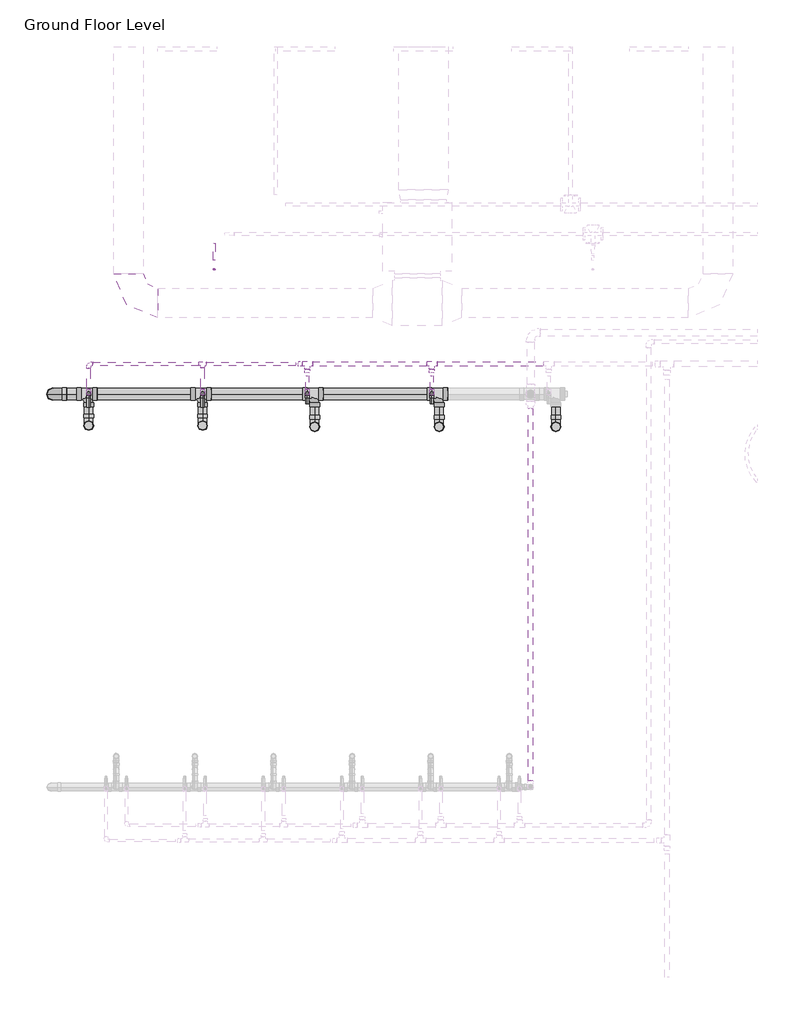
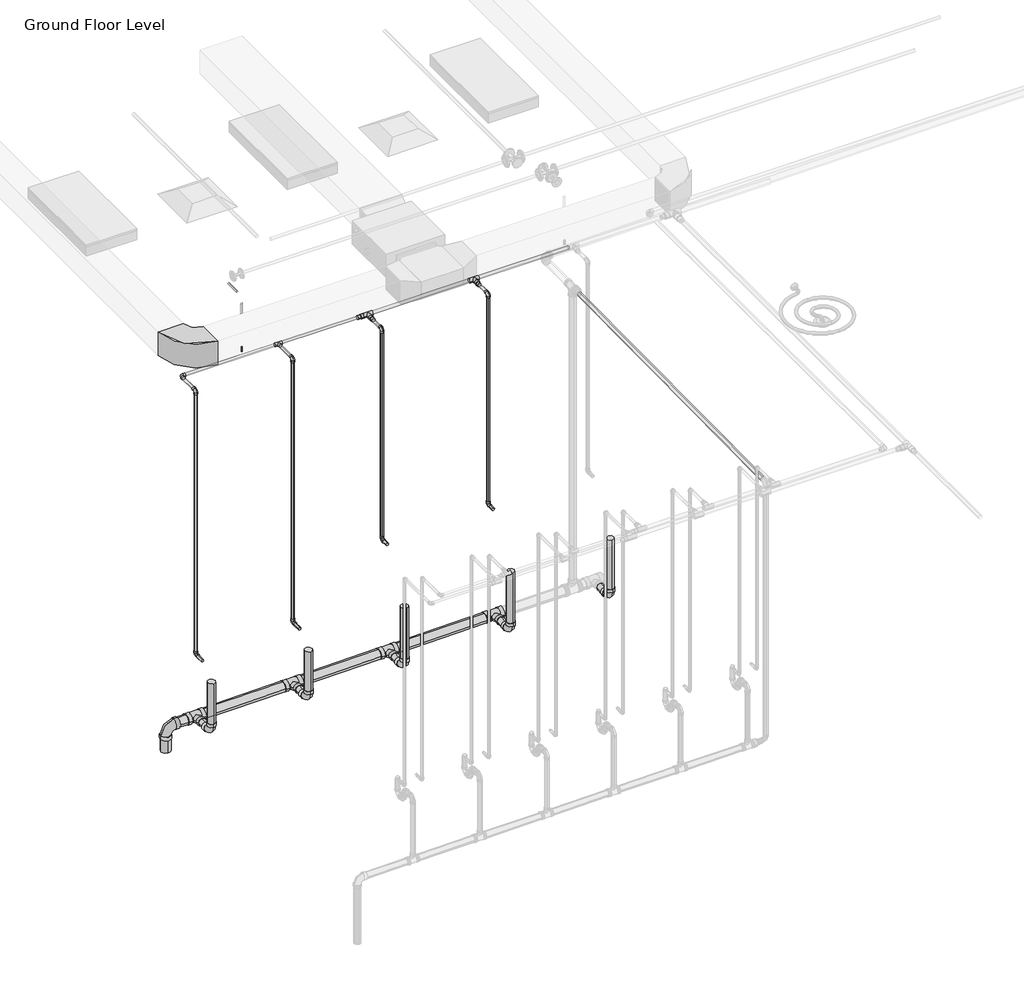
# One storey, part 41 of 66: 34 pipe segments, 25 pipe fittings, 1 duct fitting, 1 fire suppression terminal.
"""IFC4 building model written with IfcOpenShell, lengths in millimetres."""

from ifc_helpers import new_model, si_unit, point, frame, frame_2d, origin, place, context, project, spatial, circle_curve, trimmed, segment, composite_curve, outline, extrude, transform, mapped, element, save
from components import m_rectangular_elbow_radius_1_w_618da153, m_sprinkler_pendent_15_mm_pendent_06fcbd8e, m_bend_pvc_sch_40_dwv_standard_a4b99d37, m_bend_pvc_sch_40_dwv_standard_aa7efa4c, m_tee_reducing_sanitary_pvc_sch_40_dwv_standard_b49161a9, standard_517a5a8d, standard_ecb2b93d, standard_28db8dab, standard_72b35c3b, standard_08ff6011, standard_d0d0b892

model = new_model("IFC4")

# Units and contexts
model_context = context("Model", 3, world=origin())
ifc_project = project(units=[si_unit("LENGTHUNIT", "METRE", prefix="MILLI")], contexts=[model_context])

# Site, building, storey
site = spatial("IfcSite", under=ifc_project)
building = spatial("IfcBuilding", under=site)
storey = spatial("IfcBuildingStorey", under=building, Name="Ground Floor Level", Elevation=900.0)

# Duct fitting
placement = place(None, origin())
m_rectangular_elbow_radius_1_w_shape = m_rectangular_elbow_radius_1_w_618da153(model_context)
element("IfcDuctFitting", 1, ObjectType="M_Rectangular Elbow - Radius : 1 W", at=placement, inside=storey, context=model_context, shape_type="MappedRepresentation", body=[
    mapped(m_rectangular_elbow_radius_1_w_shape, transform((-20937.2327605, 14069.8153534, 4075.2881511), x_axis=(0.0, -1.0, 0.0), y_axis=(1.0, 0.0, 0.0), z_axis=(0.0, 0.0, 1.0))),
])

# Fire suppression terminal
m_sprinkler_pendent_15_mm_pendent_shape = m_sprinkler_pendent_15_mm_pendent_06fcbd8e(model_context)
element("IfcFireSuppressionTerminal", 2, ObjectType="M_Sprinkler - Pendent : 15 mm Pendent", at=placement, inside=storey, context=model_context, shape_type="MappedRepresentation", body=[
    mapped(m_sprinkler_pendent_15_mm_pendent_shape, transform((-20063.6803933, 14412.7243649, 3650.0), x_axis=(1.0, 0.0, 0.0), y_axis=(0.0, 1.0, 0.0), z_axis=(0.0, 0.0, 1.0))),
])

# Pipe fittings
m_bend_pvc_sch_40_dwv_standard_shape = m_bend_pvc_sch_40_dwv_standard_a4b99d37(model_context)
element("IfcPipeFitting", 3, ObjectType="M_Bend - PVC - Sch 40 - DWV : Standard", at=placement, inside=storey, context=model_context, shape_type="MappedRepresentation", body=[
    mapped(m_bend_pvc_sch_40_dwv_standard_shape, transform((-21343.0428538, 12823.8178806, 203.6352174), x_axis=(0.0, 0.0, -1.0), y_axis=(0.0, 1.0, 0.0), z_axis=(1.0, 0.0, 0.0))),
])
element("IfcPipeFitting", 4, ObjectType="M_Bend - PVC - Sch 40 - DWV : Standard", at=placement, inside=storey, context=model_context, shape_type="MappedRepresentation", body=[
    mapped(m_bend_pvc_sch_40_dwv_standard_shape, transform((-20183.0428538, 12823.8178806, 215.2352174), x_axis=(0.0, 0.0, -1.0), y_axis=(0.0, 1.0, 0.0), z_axis=(1.0, 0.0, 0.0))),
])
element("IfcPipeFitting", 5, ObjectType="M_Bend - PVC - Sch 40 - DWV : Standard", at=placement, inside=storey, context=model_context, shape_type="MappedRepresentation", body=[
    mapped(m_bend_pvc_sch_40_dwv_standard_shape, transform((-19043.0428538, 12811.6726561, 226.6352174), x_axis=(0.0, 0.0, -1.0), y_axis=(0.0, 1.0, 0.0), z_axis=(1.0, 0.0, 0.0))),
])
element("IfcPipeFitting", 6, ObjectType="M_Bend - PVC - Sch 40 - DWV : Standard", at=placement, inside=storey, context=model_context, shape_type="MappedRepresentation", body=[
    mapped(m_bend_pvc_sch_40_dwv_standard_shape, transform((-17775.8329095, 12811.6726561, 239.3073168), x_axis=(0.0, 0.0, -1.0), y_axis=(0.0, 1.0, 0.0), z_axis=(1.0, 0.0, 0.0))),
])
element("IfcPipeFitting", 7, ObjectType="M_Bend - PVC - Sch 40 - DWV : Standard", at=placement, inside=storey, context=model_context, shape_type="MappedRepresentation", body=[
    mapped(m_bend_pvc_sch_40_dwv_standard_shape, transform((-16586.4202262, 12811.6726561, 251.2014437), x_axis=(0.0, 0.0, -1.0), y_axis=(0.0, 1.0, 0.0), z_axis=(1.0, 0.0, 0.0))),
])
m_bend_pvc_sch_40_dwv_standard_2_shape = m_bend_pvc_sch_40_dwv_standard_aa7efa4c(model_context)
element("IfcPipeFitting", 8, ObjectType="M_Bend - PVC - Sch 40 - DWV : Standard", at=placement, inside=storey, context=model_context, shape_type="MappedRepresentation", body=[
    mapped(m_bend_pvc_sch_40_dwv_standard_2_shape, transform((-21707.2327605, 13143.7240477, 200.1933183), x_axis=(0.0, 0.0, 1.0), y_axis=(1.0, 0.0, 0.0), z_axis=(0.0, 1.0, 0.0))),
])
m_tee_reducing_sanitary_pvc_sch_40_dwv_standard_shape = m_tee_reducing_sanitary_pvc_sch_40_dwv_standard_b49161a9(model_context)
element("IfcPipeFitting", 9, ObjectType="M_Tee Reducing Sanitary - PVC - Sch 40 - DWV : Standard", at=placement, inside=storey, context=model_context, shape_type="MappedRepresentation", body=[
    mapped(m_tee_reducing_sanitary_pvc_sch_40_dwv_standard_shape, transform((-21343.0428538, 13143.7240477, 203.6352174), x_axis=(0.9999500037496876, 0.0, 0.009999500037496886), y_axis=(0.0, 1.0, 0.0), z_axis=(-0.009999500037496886, 0.0, 0.9999500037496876))),
])
element("IfcPipeFitting", 10, ObjectType="M_Tee Reducing Sanitary - PVC - Sch 40 - DWV : Standard", at=placement, inside=storey, context=model_context, shape_type="MappedRepresentation", body=[
    mapped(m_tee_reducing_sanitary_pvc_sch_40_dwv_standard_shape, transform((-20183.0428538, 13143.7240477, 215.2352174), x_axis=(0.9999500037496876, 0.0, 0.009999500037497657), y_axis=(0.0, 1.0, 0.0), z_axis=(-0.009999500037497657, 0.0, 0.9999500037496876))),
])
element("IfcPipeFitting", 11, ObjectType="M_Tee Reducing Sanitary - PVC - Sch 40 - DWV : Standard", at=placement, inside=storey, context=model_context, shape_type="MappedRepresentation", body=[
    mapped(m_tee_reducing_sanitary_pvc_sch_40_dwv_standard_shape, transform((-19043.0428538, 13143.7240477, 226.6352174), x_axis=(0.9999500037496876, 0.0, 0.009999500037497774), y_axis=(0.0, 1.0000000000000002, 0.0), z_axis=(-0.009999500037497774, 0.0, 0.9999500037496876))),
])
element("IfcPipeFitting", 12, ObjectType="M_Tee Reducing Sanitary - PVC - Sch 40 - DWV : Standard", at=placement, inside=storey, context=model_context, shape_type="MappedRepresentation", body=[
    mapped(m_tee_reducing_sanitary_pvc_sch_40_dwv_standard_shape, transform((-17775.8329095, 13143.7240477, 239.3073168), x_axis=(0.9999500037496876, 0.0, 0.00999950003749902), y_axis=(0.0, 1.0000000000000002, 0.0), z_axis=(-0.00999950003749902, 0.0, 0.9999500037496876))),
])
standard_shape = standard_517a5a8d(model_context)
element("IfcPipeFitting", 13, ObjectType="M_Elbow - CPVC - Sch 40 : Standard", at=placement, inside=storey, context=model_context, shape_type="MappedRepresentation", body=[
    mapped(standard_shape, transform((-21343.0428538, 13149.9865561, 4315.0), x_axis=(0.0, 0.0, 1.0), y_axis=(0.0, 1.0, 0.0), z_axis=(-1.0, 0.0, 0.0))),
])
element("IfcPipeFitting", 14, ObjectType="M_Elbow - CPVC - Sch 40 : Standard", at=placement, inside=storey, context=model_context, shape_type="MappedRepresentation", body=[
    mapped(standard_shape, transform((-20183.0428538, 13149.9865561, 4315.0), x_axis=(0.0, 0.0, 1.0), y_axis=(0.0, 1.0, 0.0), z_axis=(-1.0, 0.0, 0.0))),
])
element("IfcPipeFitting", 15, ObjectType="M_Elbow - CPVC - Sch 40 : Standard", at=placement, inside=storey, context=model_context, shape_type="MappedRepresentation", body=[
    mapped(standard_shape, transform((-19116.48162, 13149.9865561, 1655.0), x_axis=(0.0, 1.0, 0.0), y_axis=(0.0, 0.0, 1.0), z_axis=(1.0, 0.0, 0.0))),
])
element("IfcPipeFitting", 16, ObjectType="M_Elbow - CPVC - Sch 40 : Standard", at=placement, inside=storey, context=model_context, shape_type="MappedRepresentation", body=[
    mapped(standard_shape, transform((-19116.48162, 13149.9865561, 4315.0), x_axis=(0.0, 0.0, 1.0), y_axis=(0.0, 1.0, 0.0), z_axis=(-1.0, 0.0, 0.0))),
])
element("IfcPipeFitting", 17, ObjectType="M_Elbow - CPVC - Sch 40 : Standard", at=placement, inside=storey, context=model_context, shape_type="MappedRepresentation", body=[
    mapped(standard_shape, transform((-17849.2716757, 13149.9865561, 4315.0), x_axis=(0.0, 0.0, 1.0), y_axis=(0.0, 1.0, 0.0), z_axis=(-1.0, 0.0, 0.0))),
])
element("IfcPipeFitting", 18, ObjectType="M_Elbow - CPVC - Sch 40 : Standard", at=placement, inside=storey, context=model_context, shape_type="MappedRepresentation", body=[
    mapped(standard_shape, transform((-17849.2716757, 13149.9865561, 1655.0), x_axis=(0.0, 0.0, -1.0), y_axis=(0.0, -1.0, 0.0), z_axis=(-1.0, 0.0, 0.0))),
])
element("IfcPipeFitting", 19, ObjectType="M_Elbow - CPVC - Sch 40 : Standard", at=placement, inside=storey, context=model_context, shape_type="MappedRepresentation", body=[
    mapped(standard_shape, transform((-21343.0428538, 13449.9865561, 4315.0), x_axis=(-1.0, 0.0, 0.0), y_axis=(0.0, -1.0, 0.0), z_axis=(0.0, 0.0, 1.0))),
])
standard_2_shape = standard_ecb2b93d(model_context)
element("IfcPipeFitting", 20, ObjectType="M_Elbow - CPVC - Sch 40 : Standard", at=placement, inside=storey, context=model_context, shape_type="MappedRepresentation", body=[
    mapped(standard_2_shape, transform((-21343.0428538, 13149.9865561, 983.5000035), x_axis=(0.0, 0.9999999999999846, 1.7577295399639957e-07), y_axis=(0.0, -1.7577295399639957e-07, 0.9999999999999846), z_axis=(1.0, 0.0, 0.0))),
])
standard_3_shape = standard_28db8dab(model_context)
element("IfcPipeFitting", 21, ObjectType="M_Elbow - CPVC - Sch 40 : Standard", at=placement, inside=storey, context=model_context, shape_type="MappedRepresentation", body=[
    mapped(standard_3_shape, transform((-20183.0428538, 13149.9865561, 983.4999984), x_axis=(0.0, 0.0, -1.0), y_axis=(0.0, -1.0, 0.0), z_axis=(-1.0, 0.0, 0.0))),
])
standard_4_shape = standard_72b35c3b(model_context)
element("IfcPipeFitting", 22, ObjectType="M_Tee - CPVC - Sch 40 : Standard", at=placement, inside=storey, context=model_context, shape_type="MappedRepresentation", body=[
    mapped(standard_4_shape, transform((-20183.0428538, 13449.9865561, 4315.0), x_axis=(-1.0, 0.0, 0.0), y_axis=(0.0, 1.0, 0.0), z_axis=(0.0, 0.0, -1.0))),
])
standard_5_shape = standard_08ff6011(model_context)
element("IfcPipeFitting", 23, ObjectType="M_Tee - CPVC - Sch 40 : Standard", at=placement, inside=storey, context=model_context, shape_type="MappedRepresentation", body=[
    mapped(standard_5_shape, transform((-19116.48162, 13449.9865561, 4315.0), x_axis=(-1.0, 0.0, 0.0), y_axis=(0.0, 1.0, 0.0), z_axis=(0.0, 0.0, -1.0))),
])
element("IfcPipeFitting", 24, ObjectType="M_Tee - CPVC - Sch 40 : Standard", at=placement, inside=storey, context=model_context, shape_type="MappedRepresentation", body=[
    mapped(standard_5_shape, transform((-17849.2716757, 13449.9865561, 4315.0), x_axis=(-1.0, 0.0, 0.0), y_axis=(0.0, 1.0, 0.0), z_axis=(0.0, 0.0, -1.0))),
])
standard_6_shape = standard_d0d0b892(model_context)
element("IfcPipeFitting", 25, ObjectType="M_Coupling Reducing - CPVC - Sch 40 : Standard", at=placement, inside=storey, context=model_context, shape_type="MappedRepresentation", body=[
    mapped(standard_6_shape, transform((-19116.48162, 13396.0115561, 4315.0), x_axis=(0.0, -1.0, 0.0), y_axis=(1.0, 0.0, 0.0), z_axis=(0.0, 0.0, 1.0))),
])
element("IfcPipeFitting", 26, ObjectType="M_Coupling Reducing - CPVC - Sch 40 : Standard", at=placement, inside=storey, context=model_context, shape_type="MappedRepresentation", body=[
    mapped(standard_6_shape, transform((-17849.2716757, 13396.0115561, 4315.0), x_axis=(0.0, -1.0, 0.0), y_axis=(1.0, 0.0, 0.0), z_axis=(0.0, 0.0, 1.0))),
])
element("IfcPipeFitting", 27, ObjectType="M_Coupling Reducing - CPVC - Sch 40 : Standard", at=placement, inside=storey, context=model_context, shape_type="MappedRepresentation", body=[
    mapped(standard_6_shape, transform((-19170.45662, 13449.9865561, 4315.0), x_axis=(-1.0, 0.0, 0.0), y_axis=(0.0, -1.0, 0.0), z_axis=(0.0, 0.0, 1.0))),
])

# Pipe segments
element("IfcPipeSegment", 28, ObjectType="CPVC", at=placement, inside=storey, context=model_context, shape_type="SweptSolid", body=[
    extrude(outline(composite_curve([segment(trimmed(circle_curve(frame_2d((983.4999789, -21343.0428538)), 16.7005), [point((983.4999789, -21326.3423538))], [point((1000.2004789, -21343.0428538))], False, "CARTESIAN"), True, "CONTINUOUS"), segment(trimmed(circle_curve(frame_2d((983.4999789, -21343.0428538)), 16.7005), [point((1000.2004789, -21343.0428538))], [point((983.4999789, -21359.7433538))], False, "CARTESIAN"), True, "CONTINUOUS"), segment(trimmed(circle_curve(frame_2d((983.4999789, -21343.0428538)), 16.7005), [point((983.4999789, -21359.7433538))], [point((966.7994789, -21343.0428538))], False, "CARTESIAN"), True, "CONTINUOUS"), segment(trimmed(circle_curve(frame_2d((983.4999789, -21343.0428538)), 16.7005), [point((966.7994789, -21343.0428538))], [point((983.4999789, -21326.3423538))], False, "CARTESIAN"), True, "CONTINUOUS")], self_intersect=False)), frame((0.0, 13009.9865561, 0.0), z_axis=(0.0, 1.0, 0.0), x_axis=(0.0, 0.0, 1.0)), (0.0, 0.0, 1.0), 96.7374537),
])
element("IfcPipeSegment", 29, ObjectType="CPVC", at=placement, inside=storey, context=model_context, shape_type="SweptSolid", body=[
    extrude(outline(composite_curve([segment(trimmed(circle_curve(frame_2d((4315.0, -21343.0428538)), 16.7005), [point((4315.0, -21326.3423538))], [point((4331.7005, -21343.0428538))], False, "CARTESIAN"), True, "CONTINUOUS"), segment(trimmed(circle_curve(frame_2d((4315.0, -21343.0428538)), 16.7005), [point((4331.7005, -21343.0428538))], [point((4315.0, -21359.7433538))], False, "CARTESIAN"), True, "CONTINUOUS"), segment(trimmed(circle_curve(frame_2d((4315.0, -21343.0428538)), 16.7005), [point((4315.0, -21359.7433538))], [point((4298.2995, -21343.0428538))], False, "CARTESIAN"), True, "CONTINUOUS"), segment(trimmed(circle_curve(frame_2d((4315.0, -21343.0428538)), 16.7005), [point((4298.2995, -21343.0428538))], [point((4315.0, -21326.3423538))], False, "CARTESIAN"), True, "CONTINUOUS")], self_intersect=False)), frame((0.0, 13193.2491061, 0.0), z_axis=(0.0, 1.0, 0.0), x_axis=(0.0, 0.0, 1.0)), (0.0, 0.0, 1.0), 213.4749),
])
element("IfcPipeSegment", 30, ObjectType="CPVC", at=placement, inside=storey, context=model_context, shape_type="SweptSolid", body=[
    extrude(outline(composite_curve([segment(trimmed(circle_curve(frame_2d((-21343.0428538, 13149.9865561)), 16.7005), [point((-21359.7433538, 13149.9865561))], [point((-21343.0428538, 13166.6870561))], False, "CARTESIAN"), True, "CONTINUOUS"), segment(trimmed(circle_curve(frame_2d((-21343.0428538, 13149.9865561)), 16.7005), [point((-21343.0428538, 13166.6870561))], [point((-21326.3423538, 13149.9865561))], False, "CARTESIAN"), True, "CONTINUOUS"), segment(trimmed(circle_curve(frame_2d((-21343.0428538, 13149.9865561)), 16.7005), [point((-21326.3423538, 13149.9865561))], [point((-21343.0428538, 13133.2860561))], False, "CARTESIAN"), True, "CONTINUOUS"), segment(trimmed(circle_curve(frame_2d((-21343.0428538, 13149.9865561)), 16.7005), [point((-21343.0428538, 13133.2860561))], [point((-21359.7433538, 13149.9865561))], False, "CARTESIAN"), True, "CONTINUOUS")], self_intersect=False)), frame((0.0, 0.0, 1026.7625498), z_axis=(0.0, 0.0, 1.0), x_axis=(1.0, 0.0, 0.0)), (0.0, 0.0, 1.0), 3244.9749002),
])
element("IfcPipeSegment", 31, ObjectType="CPVC", at=placement, inside=storey, context=model_context, shape_type="SweptSolid", body=[
    extrude(outline(composite_curve([segment(trimmed(circle_curve(frame_2d((983.4999924, -20183.0428538)), 16.7005), [point((983.4999924, -20199.7433538))], [point((966.7994924, -20183.0428538))], False, "CARTESIAN"), True, "CONTINUOUS"), segment(trimmed(circle_curve(frame_2d((983.4999924, -20183.0428538)), 16.7005), [point((966.7994924, -20183.0428538))], [point((983.4999924, -20166.3423538))], False, "CARTESIAN"), True, "CONTINUOUS"), segment(trimmed(circle_curve(frame_2d((983.4999924, -20183.0428538)), 16.7005), [point((983.4999924, -20166.3423538))], [point((1000.2004924, -20183.0428538))], False, "CARTESIAN"), True, "CONTINUOUS"), segment(trimmed(circle_curve(frame_2d((983.4999924, -20183.0428538)), 16.7005), [point((1000.2004924, -20183.0428538))], [point((983.4999924, -20199.7433538))], False, "CARTESIAN"), True, "CONTINUOUS")], self_intersect=False)), frame((0.0, 13009.9865561, 0.0), z_axis=(0.0, 1.0, 0.0), x_axis=(0.0, 0.0, 1.0)), (0.0, 0.0, 1.0), 96.7374529),
])
element("IfcPipeSegment", 32, ObjectType="CPVC", at=placement, inside=storey, context=model_context, shape_type="SweptSolid", body=[
    extrude(outline(composite_curve([segment(trimmed(circle_curve(frame_2d((-20183.0428538, 13149.9865561)), 16.7005), [point((-20199.7433538, 13149.9865561))], [point((-20183.0428538, 13166.6870561))], False, "CARTESIAN"), True, "CONTINUOUS"), segment(trimmed(circle_curve(frame_2d((-20183.0428538, 13149.9865561)), 16.7005), [point((-20183.0428538, 13166.6870561))], [point((-20166.3423538, 13149.9865561))], False, "CARTESIAN"), True, "CONTINUOUS"), segment(trimmed(circle_curve(frame_2d((-20183.0428538, 13149.9865561)), 16.7005), [point((-20166.3423538, 13149.9865561))], [point((-20183.0428538, 13133.2860561))], False, "CARTESIAN"), True, "CONTINUOUS"), segment(trimmed(circle_curve(frame_2d((-20183.0428538, 13149.9865561)), 16.7005), [point((-20183.0428538, 13133.2860561))], [point((-20199.7433538, 13149.9865561))], False, "CARTESIAN"), True, "CONTINUOUS")], self_intersect=False)), frame((0.0, 0.0, 1026.7625455), z_axis=(0.0, 0.0, 1.0), x_axis=(1.0, 0.0, 0.0)), (0.0, 0.0, 1.0), 3244.9749045),
])
element("IfcPipeSegment", 33, ObjectType="CPVC", at=placement, inside=storey, context=model_context, shape_type="SweptSolid", body=[
    extrude(outline(composite_curve([segment(trimmed(circle_curve(frame_2d((1655.0, -19116.48162)), 16.7005), [point((1655.0, -19099.78112))], [point((1671.7005, -19116.48162))], False, "CARTESIAN"), True, "CONTINUOUS"), segment(trimmed(circle_curve(frame_2d((1655.0, -19116.48162)), 16.7005), [point((1671.7005, -19116.48162))], [point((1655.0, -19133.18212))], False, "CARTESIAN"), True, "CONTINUOUS"), segment(trimmed(circle_curve(frame_2d((1655.0, -19116.48162)), 16.7005), [point((1655.0, -19133.18212))], [point((1638.2995, -19116.48162))], False, "CARTESIAN"), True, "CONTINUOUS"), segment(trimmed(circle_curve(frame_2d((1655.0, -19116.48162)), 16.7005), [point((1638.2995, -19116.48162))], [point((1655.0, -19099.78112))], False, "CARTESIAN"), True, "CONTINUOUS")], self_intersect=False)), frame((0.0, 13045.2153534, 0.0), z_axis=(0.0, 1.0, 0.0), x_axis=(0.0, 0.0, 1.0)), (0.0, 0.0, 1.0), 61.5086528),
])
element("IfcPipeSegment", 34, ObjectType="CPVC", at=placement, inside=storey, context=model_context, shape_type="SweptSolid", body=[
    extrude(outline(composite_curve([segment(trimmed(circle_curve(frame_2d((-19116.48162, 13149.9865561)), 16.7005), [point((-19133.18212, 13149.9865561))], [point((-19116.48162, 13166.6870561))], False, "CARTESIAN"), True, "CONTINUOUS"), segment(trimmed(circle_curve(frame_2d((-19116.48162, 13149.9865561)), 16.7005), [point((-19116.48162, 13166.6870561))], [point((-19099.78112, 13149.9865561))], False, "CARTESIAN"), True, "CONTINUOUS"), segment(trimmed(circle_curve(frame_2d((-19116.48162, 13149.9865561)), 16.7005), [point((-19099.78112, 13149.9865561))], [point((-19116.48162, 13133.2860561))], False, "CARTESIAN"), True, "CONTINUOUS"), segment(trimmed(circle_curve(frame_2d((-19116.48162, 13149.9865561)), 16.7005), [point((-19116.48162, 13133.2860561))], [point((-19133.18212, 13149.9865561))], False, "CARTESIAN"), True, "CONTINUOUS")], self_intersect=False)), frame((0.0, 0.0, 1698.26255), z_axis=(0.0, 0.0, 1.0), x_axis=(1.0, 0.0, 0.0)), (0.0, 0.0, 1.0), 2573.4749),
])
element("IfcPipeSegment", 35, ObjectType="CPVC", at=placement, inside=storey, context=model_context, shape_type="SweptSolid", body=[
    extrude(outline(composite_curve([segment(trimmed(circle_curve(frame_2d((1655.0, -17849.2716757)), 16.7005), [point((1655.0, -17865.9721757))], [point((1638.2995, -17849.2716757))], False, "CARTESIAN"), True, "CONTINUOUS"), segment(trimmed(circle_curve(frame_2d((1655.0, -17849.2716757)), 16.7005), [point((1638.2995, -17849.2716757))], [point((1655.0, -17832.5711757))], False, "CARTESIAN"), True, "CONTINUOUS"), segment(trimmed(circle_curve(frame_2d((1655.0, -17849.2716757)), 16.7005), [point((1655.0, -17832.5711757))], [point((1671.7005, -17849.2716757))], False, "CARTESIAN"), True, "CONTINUOUS"), segment(trimmed(circle_curve(frame_2d((1655.0, -17849.2716757)), 16.7005), [point((1671.7005, -17849.2716757))], [point((1655.0, -17865.9721757))], False, "CARTESIAN"), True, "CONTINUOUS")], self_intersect=False)), frame((0.0, 13045.2153534, 0.0), z_axis=(0.0, 1.0, 0.0), x_axis=(0.0, 0.0, 1.0)), (0.0, 0.0, 1.0), 61.5086528),
])
element("IfcPipeSegment", 36, ObjectType="CPVC", at=placement, inside=storey, context=model_context, shape_type="SweptSolid", body=[
    extrude(outline(composite_curve([segment(trimmed(circle_curve(frame_2d((-17849.2716757, 13149.9865561)), 16.7005), [point((-17865.9721757, 13149.9865561))], [point((-17849.2716757, 13166.6870561))], False, "CARTESIAN"), True, "CONTINUOUS"), segment(trimmed(circle_curve(frame_2d((-17849.2716757, 13149.9865561)), 16.7005), [point((-17849.2716757, 13166.6870561))], [point((-17832.5711757, 13149.9865561))], False, "CARTESIAN"), True, "CONTINUOUS"), segment(trimmed(circle_curve(frame_2d((-17849.2716757, 13149.9865561)), 16.7005), [point((-17832.5711757, 13149.9865561))], [point((-17849.2716757, 13133.2860561))], False, "CARTESIAN"), True, "CONTINUOUS"), segment(trimmed(circle_curve(frame_2d((-17849.2716757, 13149.9865561)), 16.7005), [point((-17849.2716757, 13133.2860561))], [point((-17865.9721757, 13149.9865561))], False, "CARTESIAN"), True, "CONTINUOUS")], self_intersect=False)), frame((0.0, 0.0, 1698.26255), z_axis=(0.0, 0.0, 1.0), x_axis=(1.0, 0.0, 0.0)), (0.0, 0.0, 1.0), 2573.4749),
])
element("IfcPipeSegment", 37, ObjectType="CPVC", at=placement, inside=storey, context=model_context, shape_type="SweptSolid", body=[
    extrude(outline(composite_curve([segment(trimmed(circle_curve(frame_2d((13449.9865561, 4315.0)), 16.7005), [point((13433.2860561, 4315.0))], [point((13449.9865561, 4331.7005))], False, "CARTESIAN"), True, "CONTINUOUS"), segment(trimmed(circle_curve(frame_2d((13449.9865561, 4315.0)), 16.7005), [point((13449.9865561, 4331.7005))], [point((13466.6870561, 4315.0))], False, "CARTESIAN"), True, "CONTINUOUS"), segment(trimmed(circle_curve(frame_2d((13449.9865561, 4315.0)), 16.7005), [point((13466.6870561, 4315.0))], [point((13449.9865561, 4298.2995))], False, "CARTESIAN"), True, "CONTINUOUS"), segment(trimmed(circle_curve(frame_2d((13449.9865561, 4315.0)), 16.7005), [point((13449.9865561, 4298.2995))], [point((13433.2860561, 4315.0))], False, "CARTESIAN"), True, "CONTINUOUS")], self_intersect=False)), frame((-21299.7803038, 0.0, 0.0), z_axis=(1.0, 0.0, 0.0), x_axis=(0.0, 1.0, 0.0)), (0.0, 0.0, 1.0), 1077.03725),
])
element("IfcPipeSegment", 38, ObjectType="CPVC", at=placement, inside=storey, context=model_context, shape_type="SweptSolid", body=[
    extrude(outline(composite_curve([segment(trimmed(circle_curve(frame_2d((4315.0, -20183.0428538)), 16.7005), [point((4315.0, -20166.3423538))], [point((4331.7005, -20183.0428538))], False, "CARTESIAN"), True, "CONTINUOUS"), segment(trimmed(circle_curve(frame_2d((4315.0, -20183.0428538)), 16.7005), [point((4331.7005, -20183.0428538))], [point((4315.0, -20199.7433538))], False, "CARTESIAN"), True, "CONTINUOUS"), segment(trimmed(circle_curve(frame_2d((4315.0, -20183.0428538)), 16.7005), [point((4315.0, -20199.7433538))], [point((4298.2995, -20183.0428538))], False, "CARTESIAN"), True, "CONTINUOUS"), segment(trimmed(circle_curve(frame_2d((4315.0, -20183.0428538)), 16.7005), [point((4298.2995, -20183.0428538))], [point((4315.0, -20166.3423538))], False, "CARTESIAN"), True, "CONTINUOUS")], self_intersect=False)), frame((0.0, 13193.2491061, 0.0), z_axis=(0.0, 1.0, 0.0), x_axis=(0.0, 0.0, 1.0)), (0.0, 0.0, 1.0), 217.03725),
])
element("IfcPipeSegment", 39, ObjectType="CPVC", at=placement, inside=storey, context=model_context, shape_type="SweptSolid", body=[
    extrude(outline(composite_curve([segment(trimmed(circle_curve(frame_2d((13449.9865561, 4315.0)), 16.7005), [point((13433.2860561, 4315.0))], [point((13449.9865561, 4331.7005))], False, "CARTESIAN"), True, "CONTINUOUS"), segment(trimmed(circle_curve(frame_2d((13449.9865561, 4315.0)), 16.7005), [point((13449.9865561, 4331.7005))], [point((13466.6870561, 4315.0))], False, "CARTESIAN"), True, "CONTINUOUS"), segment(trimmed(circle_curve(frame_2d((13449.9865561, 4315.0)), 16.7005), [point((13466.6870561, 4315.0))], [point((13449.9865561, 4298.2995))], False, "CARTESIAN"), True, "CONTINUOUS"), segment(trimmed(circle_curve(frame_2d((13449.9865561, 4315.0)), 16.7005), [point((13449.9865561, 4298.2995))], [point((13433.2860561, 4315.0))], False, "CARTESIAN"), True, "CONTINUOUS")], self_intersect=False)), frame((-20143.3426538, 0.0, 0.0), z_axis=(1.0, 0.0, 0.0), x_axis=(0.0, 1.0, 0.0)), (0.0, 0.0, 1.0), 906.7671588),
])
element("IfcPipeSegment", 40, ObjectType="CPVC", at=placement, inside=storey, context=model_context, shape_type="SweptSolid", body=[
    extrude(outline(composite_curve([segment(trimmed(circle_curve(frame_2d((4315.0, -19116.48162)), 16.7005), [point((4315.0, -19099.78112))], [point((4331.7005, -19116.48162))], False, "CARTESIAN"), True, "CONTINUOUS"), segment(trimmed(circle_curve(frame_2d((4315.0, -19116.48162)), 16.7005), [point((4331.7005, -19116.48162))], [point((4315.0, -19133.18212))], False, "CARTESIAN"), True, "CONTINUOUS"), segment(trimmed(circle_curve(frame_2d((4315.0, -19116.48162)), 16.7005), [point((4315.0, -19133.18212))], [point((4298.2995, -19116.48162))], False, "CARTESIAN"), True, "CONTINUOUS"), segment(trimmed(circle_curve(frame_2d((4315.0, -19116.48162)), 16.7005), [point((4298.2995, -19116.48162))], [point((4315.0, -19099.78112))], False, "CARTESIAN"), True, "CONTINUOUS")], self_intersect=False)), frame((0.0, 13193.2491061, 0.0), z_axis=(0.0, 1.0, 0.0), x_axis=(0.0, 0.0, 1.0)), (0.0, 0.0, 1.0), 136.643575),
])
element("IfcPipeSegment", 41, ObjectType="CPVC", at=placement, inside=storey, context=model_context, shape_type="SweptSolid", body=[
    extrude(outline(composite_curve([segment(trimmed(circle_curve(frame_2d((13449.9865561, 4315.0)), 21.082), [point((13428.9045561, 4315.0))], [point((13449.9865561, 4336.082))], False, "CARTESIAN"), True, "CONTINUOUS"), segment(trimmed(circle_curve(frame_2d((13449.9865561, 4315.0)), 21.082), [point((13449.9865561, 4336.082))], [point((13471.0685561, 4315.0))], False, "CARTESIAN"), True, "CONTINUOUS"), segment(trimmed(circle_curve(frame_2d((13449.9865561, 4315.0)), 21.082), [point((13471.0685561, 4315.0))], [point((13449.9865561, 4293.918))], False, "CARTESIAN"), True, "CONTINUOUS"), segment(trimmed(circle_curve(frame_2d((13449.9865561, 4315.0)), 21.082), [point((13449.9865561, 4293.918))], [point((13428.9045561, 4315.0))], False, "CARTESIAN"), True, "CONTINUOUS")], self_intersect=False)), frame((-19062.50662, 0.0, 0.0), z_axis=(1.0, 0.0, 0.0), x_axis=(0.0, 1.0, 0.0)), (0.0, 0.0, 1.0), 1159.2599443),
])
element("IfcPipeSegment", 42, ObjectType="CPVC", at=placement, inside=storey, context=model_context, shape_type="SweptSolid", body=[
    extrude(outline(composite_curve([segment(trimmed(circle_curve(frame_2d((4315.0, -17849.2716757)), 16.7005), [point((4315.0, -17832.5711757))], [point((4331.7005, -17849.2716757))], False, "CARTESIAN"), True, "CONTINUOUS"), segment(trimmed(circle_curve(frame_2d((4315.0, -17849.2716757)), 16.7005), [point((4331.7005, -17849.2716757))], [point((4315.0, -17865.9721757))], False, "CARTESIAN"), True, "CONTINUOUS"), segment(trimmed(circle_curve(frame_2d((4315.0, -17849.2716757)), 16.7005), [point((4315.0, -17865.9721757))], [point((4298.2995, -17849.2716757))], False, "CARTESIAN"), True, "CONTINUOUS"), segment(trimmed(circle_curve(frame_2d((4315.0, -17849.2716757)), 16.7005), [point((4298.2995, -17849.2716757))], [point((4315.0, -17832.5711757))], False, "CARTESIAN"), True, "CONTINUOUS")], self_intersect=False)), frame((0.0, 13193.2491061, 0.0), z_axis=(0.0, 1.0, 0.0), x_axis=(0.0, 0.0, 1.0)), (0.0, 0.0, 1.0), 136.643575),
])
element("IfcPipeSegment", 43, ObjectType="CPVC", at=placement, inside=storey, context=model_context, shape_type="SweptSolid", body=[
    extrude(outline(composite_curve([segment(trimmed(circle_curve(frame_2d((13449.9865561, 4315.0)), 21.082), [point((13428.9045561, 4315.0))], [point((13449.9865561, 4336.082))], False, "CARTESIAN"), True, "CONTINUOUS"), segment(trimmed(circle_curve(frame_2d((13449.9865561, 4315.0)), 21.082), [point((13449.9865561, 4336.082))], [point((13471.0685561, 4315.0))], False, "CARTESIAN"), True, "CONTINUOUS"), segment(trimmed(circle_curve(frame_2d((13449.9865561, 4315.0)), 21.082), [point((13471.0685561, 4315.0))], [point((13449.9865561, 4293.918))], False, "CARTESIAN"), True, "CONTINUOUS"), segment(trimmed(circle_curve(frame_2d((13449.9865561, 4315.0)), 21.082), [point((13449.9865561, 4293.918))], [point((13428.9045561, 4315.0))], False, "CARTESIAN"), True, "CONTINUOUS")], self_intersect=False)), frame((-17795.2966757, 0.0, 0.0), z_axis=(1.0, 0.0, 0.0), x_axis=(0.0, 1.0, 0.0)), (0.0, 0.0, 1.0), 1081.4626833),
])
element("IfcPipeSegment", 44, ObjectType="PVC - DWV", at=placement, inside=storey, context=model_context, shape_type="SweptSolid", body=[
    extrude(outline(composite_curve([segment(trimmed(circle_curve(frame_2d((-21343.0428538, 12823.8178806)), 44.45), [point((-21298.5928538, 12823.8178806))], [point((-21343.0428538, 12779.3678806))], False, "CARTESIAN"), True, "CONTINUOUS"), segment(trimmed(circle_curve(frame_2d((-21343.0428538, 12823.8178806)), 44.45), [point((-21343.0428538, 12779.3678806))], [point((-21387.4928538, 12823.8178806))], False, "CARTESIAN"), True, "CONTINUOUS"), segment(trimmed(circle_curve(frame_2d((-21343.0428538, 12823.8178806)), 44.45), [point((-21387.4928538, 12823.8178806))], [point((-21343.0428538, 12868.2678806))], False, "CARTESIAN"), True, "CONTINUOUS"), segment(trimmed(circle_curve(frame_2d((-21343.0428538, 12823.8178806)), 44.45), [point((-21343.0428538, 12868.2678806))], [point((-21298.5928538, 12823.8178806))], False, "CARTESIAN"), True, "CONTINUOUS")], self_intersect=False)), frame((0.0, 0.0, 319.5354174), z_axis=(0.0, 0.0, 1.0), x_axis=(1.0, 0.0, 0.0)), (0.0, 0.0, 1.0), 511.1329592),
])
element("IfcPipeSegment", 45, ObjectType="PVC - DWV", at=placement, inside=storey, context=model_context, shape_type="SweptSolid", body=[
    extrude(outline(composite_curve([segment(trimmed(circle_curve(frame_2d((203.6352174, -21343.0428538)), 44.45), [point((203.6352174, -21298.5928538))], [point((248.0852174, -21343.0428538))], False, "CARTESIAN"), True, "CONTINUOUS"), segment(trimmed(circle_curve(frame_2d((203.6352174, -21343.0428538)), 44.45), [point((248.0852174, -21343.0428538))], [point((203.6352174, -21387.4928538))], False, "CARTESIAN"), True, "CONTINUOUS"), segment(trimmed(circle_curve(frame_2d((203.6352174, -21343.0428538)), 44.45), [point((203.6352174, -21387.4928538))], [point((159.1852174, -21343.0428538))], False, "CARTESIAN"), True, "CONTINUOUS"), segment(trimmed(circle_curve(frame_2d((203.6352174, -21343.0428538)), 44.45), [point((159.1852174, -21343.0428538))], [point((203.6352174, -21298.5928538))], False, "CARTESIAN"), True, "CONTINUOUS")], self_intersect=False)), frame((0.0, 12939.7180806, 0.0), z_axis=(0.0, 1.0, 0.0), x_axis=(0.0, 0.0, 1.0)), (0.0, 0.0, 1.0), 75.4057671),
])
element("IfcPipeSegment", 46, ObjectType="PVC - DWV", at=placement, inside=storey, context=model_context, shape_type="SweptSolid", body=[
    extrude(outline(composite_curve([segment(trimmed(circle_curve(frame_2d((0.0, -57.15)), 57.15), [point((0.0, 0.0))], [point((57.15, -57.15))], False, "CARTESIAN"), True, "CONTINUOUS"), segment(trimmed(circle_curve(frame_2d((0.0, -57.15)), 57.15), [point((57.15, -57.15))], [point((0.0, -114.3))], False, "CARTESIAN"), True, "CONTINUOUS"), segment(trimmed(circle_curve(frame_2d((0.0, -57.15)), 57.15), [point((0.0, -114.3))], [point((-57.15, -57.15))], False, "CARTESIAN"), True, "CONTINUOUS"), segment(trimmed(circle_curve(frame_2d((0.0, -57.15)), 57.15), [point((-57.15, -57.15))], [point((0.0, 0.0))], False, "CARTESIAN"), True, "CONTINUOUS")], self_intersect=False)), frame((-21564.3649037, 13200.8740477, 201.6219969), z_axis=(0.9999500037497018, 0.0, 0.00999950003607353), x_axis=(0.00999950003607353, 0.0, -0.9999500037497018)), (0.0, 0.0, 1.0), 100.6811159),
])
element("IfcPipeSegment", 47, ObjectType="PVC - DWV", at=placement, inside=storey, context=model_context, shape_type="SweptSolid", body=[
    extrude(outline(composite_curve([segment(trimmed(circle_curve(frame_2d((-20183.0428538, 12823.8178806)), 44.45), [point((-20138.5928538, 12823.8178806))], [point((-20183.0428538, 12779.3678806))], False, "CARTESIAN"), True, "CONTINUOUS"), segment(trimmed(circle_curve(frame_2d((-20183.0428538, 12823.8178806)), 44.45), [point((-20183.0428538, 12779.3678806))], [point((-20227.4928538, 12823.8178806))], False, "CARTESIAN"), True, "CONTINUOUS"), segment(trimmed(circle_curve(frame_2d((-20183.0428538, 12823.8178806)), 44.45), [point((-20227.4928538, 12823.8178806))], [point((-20183.0428538, 12868.2678806))], False, "CARTESIAN"), True, "CONTINUOUS"), segment(trimmed(circle_curve(frame_2d((-20183.0428538, 12823.8178806)), 44.45), [point((-20183.0428538, 12868.2678806))], [point((-20138.5928538, 12823.8178806))], False, "CARTESIAN"), True, "CONTINUOUS")], self_intersect=False)), frame((0.0, 0.0, 331.1354174), z_axis=(0.0, 0.0, 1.0), x_axis=(1.0, 0.0, 0.0)), (0.0, 0.0, 1.0), 499.5329592),
])
element("IfcPipeSegment", 48, ObjectType="PVC - DWV", at=placement, inside=storey, context=model_context, shape_type="SweptSolid", body=[
    extrude(outline(composite_curve([segment(trimmed(circle_curve(frame_2d((215.2352174, -20183.0428538)), 44.45), [point((215.2352174, -20138.5928538))], [point((259.6852174, -20183.0428538))], False, "CARTESIAN"), True, "CONTINUOUS"), segment(trimmed(circle_curve(frame_2d((215.2352174, -20183.0428538)), 44.45), [point((259.6852174, -20183.0428538))], [point((215.2352174, -20227.4928538))], False, "CARTESIAN"), True, "CONTINUOUS"), segment(trimmed(circle_curve(frame_2d((215.2352174, -20183.0428538)), 44.45), [point((215.2352174, -20227.4928538))], [point((170.7852174, -20183.0428538))], False, "CARTESIAN"), True, "CONTINUOUS"), segment(trimmed(circle_curve(frame_2d((215.2352174, -20183.0428538)), 44.45), [point((170.7852174, -20183.0428538))], [point((215.2352174, -20138.5928538))], False, "CARTESIAN"), True, "CONTINUOUS")], self_intersect=False)), frame((0.0, 12939.7180806, 0.0), z_axis=(0.0, 1.0, 0.0), x_axis=(0.0, 0.0, 1.0)), (0.0, 0.0, 1.0), 75.4057671),
])
element("IfcPipeSegment", 49, ObjectType="PVC - DWV", at=placement, inside=storey, context=model_context, shape_type="SweptSolid", body=[
    extrude(outline(composite_curve([segment(trimmed(circle_curve(frame_2d((0.0, -57.15)), 57.15), [point((0.0, 0.0))], [point((57.1500001, -57.15))], False, "CARTESIAN"), True, "CONTINUOUS"), segment(trimmed(circle_curve(frame_2d((0.0, -57.15)), 57.15), [point((57.1500001, -57.15))], [point((0.0, -114.3))], False, "CARTESIAN"), True, "CONTINUOUS"), segment(trimmed(circle_curve(frame_2d((0.0, -57.15)), 57.15), [point((0.0, -114.3))], [point((-57.15, -57.15))], False, "CARTESIAN"), True, "CONTINUOUS"), segment(trimmed(circle_curve(frame_2d((0.0, -57.15)), 57.15), [point((-57.15, -57.15))], [point((0.0, 0.0))], False, "CARTESIAN"), True, "CONTINUOUS")], self_intersect=False)), frame((-21254.1472985, 13200.8740477, 204.524173), z_axis=(0.9999500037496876, 0.0, 0.009999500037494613), x_axis=(0.009999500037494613, 0.0, -0.9999500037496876)), (0.0, 0.0, 1.0), 950.5079986),
])
element("IfcPipeSegment", 50, ObjectType="PVC - DWV", at=placement, inside=storey, context=model_context, shape_type="SweptSolid", body=[
    extrude(outline(composite_curve([segment(trimmed(circle_curve(frame_2d((-19043.0428538, 12811.6726561)), 44.45), [point((-18998.5928538, 12811.6726561))], [point((-19043.0428538, 12767.2226561))], False, "CARTESIAN"), True, "CONTINUOUS"), segment(trimmed(circle_curve(frame_2d((-19043.0428538, 12811.6726561)), 44.45), [point((-19043.0428538, 12767.2226561))], [point((-19087.4928538, 12811.6726561))], False, "CARTESIAN"), True, "CONTINUOUS"), segment(trimmed(circle_curve(frame_2d((-19043.0428538, 12811.6726561)), 44.45), [point((-19087.4928538, 12811.6726561))], [point((-19043.0428538, 12856.1226561))], False, "CARTESIAN"), True, "CONTINUOUS"), segment(trimmed(circle_curve(frame_2d((-19043.0428538, 12811.6726561)), 44.45), [point((-19043.0428538, 12856.1226561))], [point((-18998.5928538, 12811.6726561))], False, "CARTESIAN"), True, "CONTINUOUS")], self_intersect=False)), frame((0.0, 0.0, 342.5354174), z_axis=(0.0, 0.0, 1.0), x_axis=(1.0, 0.0, 0.0)), (0.0, 0.0, 1.0), 647.4645826),
])
element("IfcPipeSegment", 51, ObjectType="PVC - DWV", at=placement, inside=storey, context=model_context, shape_type="SweptSolid", body=[
    extrude(outline(composite_curve([segment(trimmed(circle_curve(frame_2d((226.6352174, -19043.0428538)), 44.45), [point((226.6352174, -18998.5928538))], [point((271.0852174, -19043.0428538))], False, "CARTESIAN"), True, "CONTINUOUS"), segment(trimmed(circle_curve(frame_2d((226.6352174, -19043.0428538)), 44.45), [point((271.0852174, -19043.0428538))], [point((226.6352174, -19087.4928538))], False, "CARTESIAN"), True, "CONTINUOUS"), segment(trimmed(circle_curve(frame_2d((226.6352174, -19043.0428538)), 44.45), [point((226.6352174, -19087.4928538))], [point((182.1852174, -19043.0428538))], False, "CARTESIAN"), True, "CONTINUOUS"), segment(trimmed(circle_curve(frame_2d((226.6352174, -19043.0428538)), 44.45), [point((182.1852174, -19043.0428538))], [point((226.6352174, -18998.5928538))], False, "CARTESIAN"), True, "CONTINUOUS")], self_intersect=False)), frame((0.0, 12927.5728561, 0.0), z_axis=(0.0, 1.0, 0.0), x_axis=(0.0, 0.0, 1.0)), (0.0, 0.0, 1.0), 87.5509916),
])
element("IfcPipeSegment", 52, ObjectType="PVC - DWV", at=placement, inside=storey, context=model_context, shape_type="SweptSolid", body=[
    extrude(outline(composite_curve([segment(trimmed(circle_curve(frame_2d((0.0, -57.15)), 57.15), [point((0.0, 0.0))], [point((57.1500001, -57.15))], False, "CARTESIAN"), True, "CONTINUOUS"), segment(trimmed(circle_curve(frame_2d((0.0, -57.15)), 57.15), [point((57.1500001, -57.15))], [point((0.0, -114.3))], False, "CARTESIAN"), True, "CONTINUOUS"), segment(trimmed(circle_curve(frame_2d((0.0, -57.15)), 57.15), [point((0.0, -114.3))], [point((-57.15, -57.15))], False, "CARTESIAN"), True, "CONTINUOUS"), segment(trimmed(circle_curve(frame_2d((0.0, -57.15)), 57.15), [point((-57.15, -57.15))], [point((0.0, 0.0))], False, "CARTESIAN"), True, "CONTINUOUS")], self_intersect=False)), frame((-20094.1472985, 13200.8740477, 216.124173), z_axis=(0.9999500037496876, 0.0, 0.009999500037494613), x_axis=(0.009999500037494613, 0.0, -0.9999500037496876)), (0.0, 0.0, 1.0), 930.5069986),
])
element("IfcPipeSegment", 53, ObjectType="PVC - DWV", at=placement, inside=storey, context=model_context, shape_type="SweptSolid", body=[
    extrude(outline(composite_curve([segment(trimmed(circle_curve(frame_2d((-17775.8329095, 12811.6726561)), 44.45), [point((-17731.3829095, 12811.6726561))], [point((-17775.8329095, 12767.2226561))], False, "CARTESIAN"), True, "CONTINUOUS"), segment(trimmed(circle_curve(frame_2d((-17775.8329095, 12811.6726561)), 44.45), [point((-17775.8329095, 12767.2226561))], [point((-17820.2829095, 12811.6726561))], False, "CARTESIAN"), True, "CONTINUOUS"), segment(trimmed(circle_curve(frame_2d((-17775.8329095, 12811.6726561)), 44.45), [point((-17820.2829095, 12811.6726561))], [point((-17775.8329095, 12856.1226561))], False, "CARTESIAN"), True, "CONTINUOUS"), segment(trimmed(circle_curve(frame_2d((-17775.8329095, 12811.6726561)), 44.45), [point((-17775.8329095, 12856.1226561))], [point((-17731.3829095, 12811.6726561))], False, "CARTESIAN"), True, "CONTINUOUS")], self_intersect=False)), frame((0.0, 0.0, 355.2075168), z_axis=(0.0, 0.0, 1.0), x_axis=(1.0, 0.0, 0.0)), (0.0, 0.0, 1.0), 634.7924832),
])
element("IfcPipeSegment", 54, ObjectType="PVC - DWV", at=placement, inside=storey, context=model_context, shape_type="SweptSolid", body=[
    extrude(outline(composite_curve([segment(trimmed(circle_curve(frame_2d((239.3073168, -17775.8329095)), 44.45), [point((239.3073168, -17731.3829095))], [point((283.7573168, -17775.8329095))], False, "CARTESIAN"), True, "CONTINUOUS"), segment(trimmed(circle_curve(frame_2d((239.3073168, -17775.8329095)), 44.45), [point((283.7573168, -17775.8329095))], [point((239.3073168, -17820.2829095))], False, "CARTESIAN"), True, "CONTINUOUS"), segment(trimmed(circle_curve(frame_2d((239.3073168, -17775.8329095)), 44.45), [point((239.3073168, -17820.2829095))], [point((194.8573168, -17775.8329095))], False, "CARTESIAN"), True, "CONTINUOUS"), segment(trimmed(circle_curve(frame_2d((239.3073168, -17775.8329095)), 44.45), [point((194.8573168, -17775.8329095))], [point((239.3073168, -17731.3829095))], False, "CARTESIAN"), True, "CONTINUOUS")], self_intersect=False)), frame((0.0, 12927.5728561, 0.0), z_axis=(0.0, 1.0, 0.0), x_axis=(0.0, 0.0, 1.0)), (0.0, 0.0, 1.0), 87.5509916),
])
element("IfcPipeSegment", 55, ObjectType="PVC - DWV", at=placement, inside=storey, context=model_context, shape_type="SweptSolid", body=[
    extrude(outline(composite_curve([segment(trimmed(circle_curve(frame_2d((0.0, -57.15)), 57.15), [point((0.0, 0.0))], [point((57.1500001, -57.15))], False, "CARTESIAN"), True, "CONTINUOUS"), segment(trimmed(circle_curve(frame_2d((0.0, -57.15)), 57.15), [point((57.1500001, -57.15))], [point((0.0, -114.3))], False, "CARTESIAN"), True, "CONTINUOUS"), segment(trimmed(circle_curve(frame_2d((0.0, -57.15)), 57.15), [point((0.0, -114.3))], [point((-57.15, -57.15))], False, "CARTESIAN"), True, "CONTINUOUS"), segment(trimmed(circle_curve(frame_2d((0.0, -57.15)), 57.15), [point((-57.15, -57.15))], [point((0.0, 0.0))], False, "CARTESIAN"), True, "CONTINUOUS")], self_intersect=False)), frame((-18954.1472985, 13200.8740477, 227.524173), z_axis=(0.9999500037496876, 0.0, 0.009999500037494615), x_axis=(0.009999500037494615, 0.0, -0.9999500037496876)), (0.0, 0.0, 1.0), 1057.7233032),
])
element("IfcPipeSegment", 56, ObjectType="PVC - DWV", at=placement, inside=storey, context=model_context, shape_type="SweptSolid", body=[
    extrude(outline(composite_curve([segment(trimmed(circle_curve(frame_2d((-16586.4202262, 12811.6726561)), 44.45), [point((-16541.9702262, 12811.6726561))], [point((-16586.4202262, 12767.2226561))], False, "CARTESIAN"), True, "CONTINUOUS"), segment(trimmed(circle_curve(frame_2d((-16586.4202262, 12811.6726561)), 44.45), [point((-16586.4202262, 12767.2226561))], [point((-16630.8702262, 12811.6726561))], False, "CARTESIAN"), True, "CONTINUOUS"), segment(trimmed(circle_curve(frame_2d((-16586.4202262, 12811.6726561)), 44.45), [point((-16630.8702262, 12811.6726561))], [point((-16586.4202262, 12856.1226561))], False, "CARTESIAN"), True, "CONTINUOUS"), segment(trimmed(circle_curve(frame_2d((-16586.4202262, 12811.6726561)), 44.45), [point((-16586.4202262, 12856.1226561))], [point((-16541.9702262, 12811.6726561))], False, "CARTESIAN"), True, "CONTINUOUS")], self_intersect=False)), frame((0.0, 0.0, 367.1016437), z_axis=(0.0, 0.0, 1.0), x_axis=(1.0, 0.0, 0.0)), (0.0, 0.0, 1.0), 622.8983563),
])
element("IfcPipeSegment", 57, ObjectType="PVC - DWV", at=placement, inside=storey, context=model_context, shape_type="SweptSolid", body=[
    extrude(outline(composite_curve([segment(trimmed(circle_curve(frame_2d((251.2014437, -16586.4202262)), 44.45), [point((251.2014437, -16541.9702262))], [point((295.6514437, -16586.4202262))], False, "CARTESIAN"), True, "CONTINUOUS"), segment(trimmed(circle_curve(frame_2d((251.2014437, -16586.4202262)), 44.45), [point((295.6514437, -16586.4202262))], [point((251.2014437, -16630.8702262))], False, "CARTESIAN"), True, "CONTINUOUS"), segment(trimmed(circle_curve(frame_2d((251.2014437, -16586.4202262)), 44.45), [point((251.2014437, -16630.8702262))], [point((206.7514437, -16586.4202262))], False, "CARTESIAN"), True, "CONTINUOUS"), segment(trimmed(circle_curve(frame_2d((251.2014437, -16586.4202262)), 44.45), [point((206.7514437, -16586.4202262))], [point((251.2014437, -16541.9702262))], False, "CARTESIAN"), True, "CONTINUOUS")], self_intersect=False)), frame((0.0, 12927.5728561, 0.0), z_axis=(0.0, 1.0, 0.0), x_axis=(0.0, 0.0, 1.0)), (0.0, 0.0, 1.0), 87.5509916),
])
element("IfcPipeSegment", 58, ObjectType="PVC - DWV", at=placement, inside=storey, context=model_context, shape_type="SweptSolid", body=[
    extrude(outline(composite_curve([segment(trimmed(circle_curve(frame_2d((-21707.2327605, 13143.7240477)), 57.15), [point((-21650.0827605, 13143.7240477))], [point((-21707.2327605, 13086.5740477))], False, "CARTESIAN"), True, "CONTINUOUS"), segment(trimmed(circle_curve(frame_2d((-21707.2327605, 13143.7240477)), 57.15), [point((-21707.2327605, 13086.5740477))], [point((-21764.3827605, 13143.7240477))], False, "CARTESIAN"), True, "CONTINUOUS"), segment(trimmed(circle_curve(frame_2d((-21707.2327605, 13143.7240477)), 57.15), [point((-21764.3827605, 13143.7240477))], [point((-21707.2327605, 13200.8740477))], False, "CARTESIAN"), True, "CONTINUOUS"), segment(trimmed(circle_curve(frame_2d((-21707.2327605, 13143.7240477)), 57.15), [point((-21707.2327605, 13200.8740477))], [point((-21650.0827605, 13143.7240477))], False, "CARTESIAN"), True, "CONTINUOUS")], self_intersect=False)), frame((0.0, 0.0, -100.0), z_axis=(0.0, 0.0, 1.0), x_axis=(1.0, 0.0, 0.0)), (0.0, 0.0, 1.0), 157.3183183),
])
element("IfcPipeSegment", 59, ObjectType="PVC - DWV", at=placement, inside=storey, context=model_context, shape_type="SweptSolid", body=[
    extrude(outline(composite_curve([segment(trimmed(circle_curve(frame_2d((0.0, 24.13)), 24.13), [point((24.13, 24.13))], [point((0.0, 0.0))], False, "CARTESIAN"), True, "CONTINUOUS"), segment(trimmed(circle_curve(frame_2d((0.0, 24.13)), 24.13), [point((0.0, 0.0))], [point((-24.13, 24.13))], False, "CARTESIAN"), True, "CONTINUOUS"), segment(trimmed(circle_curve(frame_2d((0.0, 24.13)), 24.13), [point((-24.13, 24.13))], [point((0.0, 48.26))], False, "CARTESIAN"), True, "CONTINUOUS"), segment(trimmed(circle_curve(frame_2d((0.0, 24.13)), 24.13), [point((0.0, 48.26))], [point((24.13, 24.13))], False, "CARTESIAN"), True, "CONTINUOUS")], self_intersect=False)), frame((-16844.3158637, 9205.5039756, 4035.5483838), z_axis=(0.0, 0.9999500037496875, 0.009999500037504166), x_axis=(1.0, 0.0, 0.0)), (0.0, 0.0, 1.0), 3795.0796333),
])
element("IfcPipeSegment", 60, ObjectType="Steel flanged", at=placement, inside=storey, context=model_context, shape_type="SweptSolid", body=[
    extrude(outline(composite_curve([segment(trimmed(circle_curve(frame_2d((-20063.6803933, 14412.7243649)), 10.668), [point((-20074.3483933, 14412.7243649))], [point((-20063.6803933, 14423.3923649))], False, "CARTESIAN"), True, "CONTINUOUS"), segment(trimmed(circle_curve(frame_2d((-20063.6803933, 14412.7243649)), 10.668), [point((-20063.6803933, 14423.3923649))], [point((-20053.0123933, 14412.7243649))], False, "CARTESIAN"), True, "CONTINUOUS"), segment(trimmed(circle_curve(frame_2d((-20063.6803933, 14412.7243649)), 10.668), [point((-20053.0123933, 14412.7243649))], [point((-20063.6803933, 14402.0563649))], False, "CARTESIAN"), True, "CONTINUOUS"), segment(trimmed(circle_curve(frame_2d((-20063.6803933, 14412.7243649)), 10.668), [point((-20063.6803933, 14402.0563649))], [point((-20074.3483933, 14412.7243649))], False, "CARTESIAN"), True, "CONTINUOUS")], self_intersect=False)), frame((0.0, 0.0, 3650.0), z_axis=(0.0, 0.0, 1.0), x_axis=(1.0, 0.0, 0.0)), (0.0, 0.0, 1.0), 548.2668816),
])
element("IfcPipeSegment", 61, ObjectType="Steel flanged", at=placement, inside=storey, context=model_context, shape_type="SweptSolid", body=[
    extrude(outline(composite_curve([segment(trimmed(circle_curve(frame_2d((4291.0943441, -20063.6803933)), 10.668), [point((4291.0943441, -20053.0123933))], [point((4301.7623441, -20063.6803933))], False, "CARTESIAN"), True, "CONTINUOUS"), segment(trimmed(circle_curve(frame_2d((4291.0943441, -20063.6803933)), 10.668), [point((4301.7623441, -20063.6803933))], [point((4291.0943441, -20074.3483933))], False, "CARTESIAN"), True, "CONTINUOUS"), segment(trimmed(circle_curve(frame_2d((4291.0943441, -20063.6803933)), 10.668), [point((4291.0943441, -20074.3483933))], [point((4280.4263441, -20063.6803933))], False, "CARTESIAN"), True, "CONTINUOUS"), segment(trimmed(circle_curve(frame_2d((4291.0943441, -20063.6803933)), 10.668), [point((4280.4263441, -20063.6803933))], [point((4291.0943441, -20053.0123933))], False, "CARTESIAN"), True, "CONTINUOUS")], self_intersect=False)), frame((0.0, 14505.7329586, 0.0), z_axis=(0.0, 1.0, 0.0), x_axis=(0.0, 0.0, 1.0)), (0.0, 0.0, 1.0), 174.7266324),
])

save(model, "model.ifc")
